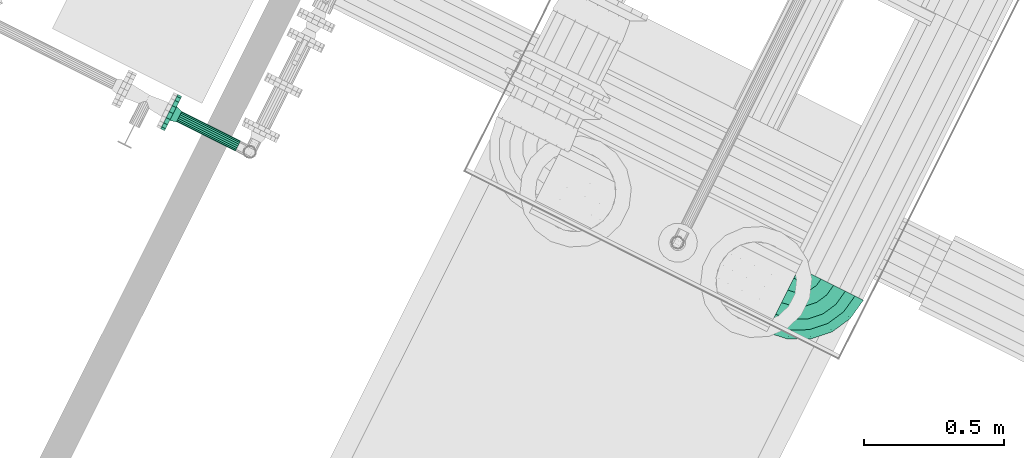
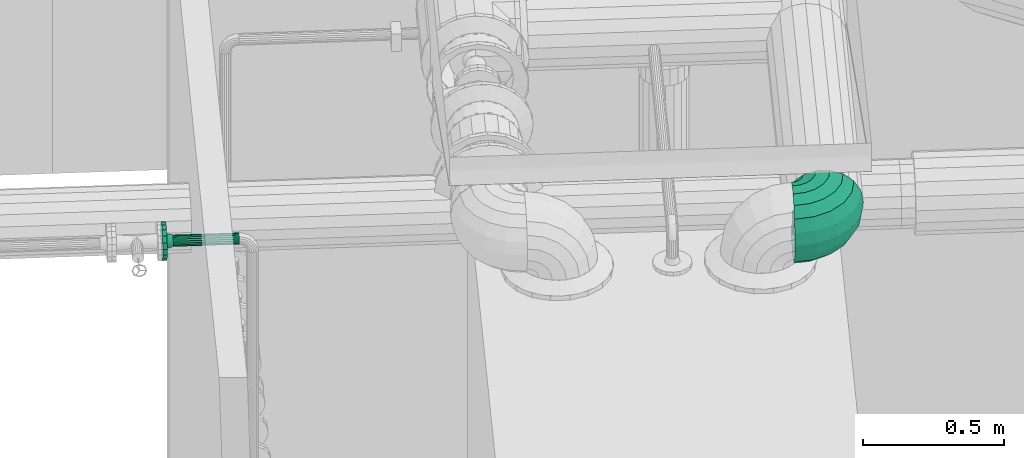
# One storey, part 87 of 206: 2 flow segments, 1 flow fitting.
"""IFC2X3 building model written with IfcOpenShell, lengths in metres."""

from ifc_helpers import new_model, si_unit, derived_unit, direction, frame, origin, place, context, subcontext, project, spatial, face_set, surface_model, source, transform, mapped, material, type_object, type_shapes, element, save


model = new_model("IFC2X3")

# Units and contexts
model_context = context("Model", 3, precision=5.2338327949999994e-05, world=origin(), true_north=direction((0.0, 1.0)))
body_context = subcontext(model_context, "Body", "Model", "MODEL_VIEW")
ifc_project = project(units=[si_unit("LENGTHUNIT", "METRE"), si_unit("AREAUNIT", "SQUARE_METRE"), si_unit("VOLUMEUNIT", "CUBIC_METRE"), si_unit("MASSUNIT", "GRAM", prefix="KILO"), si_unit("PLANEANGLEUNIT", "RADIAN"), derived_unit("THERMALTRANSMITTANCEUNIT", [(si_unit("MASSUNIT", "GRAM", prefix="KILO"), 1), (si_unit("THERMODYNAMICTEMPERATUREUNIT", "KELVIN"), -1), (si_unit("TIMEUNIT", "SECOND"), -3)])], contexts=[model_context])

# Site, building, storey
site_placement = place(None, frame((0.0, 0.0, 0.0), z_axis=(0.0, 0.0, 1.0), x_axis=(0.8939966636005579, -0.4480736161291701, 0.0)))
site = spatial("IfcSite", under=ifc_project, at=site_placement, Name="Default", CompositionType="ELEMENT")
building_placement = place(site_placement, origin())
building = spatial("IfcBuilding", under=site, at=building_placement, CompositionType="ELEMENT")
storey_placement = place(building_placement, origin())
storey = spatial("IfcBuildingStorey", under=building, at=storey_placement, Name="Erdgeschoss", CompositionType="ELEMENT", Elevation=0.0)

# Flow segment
ifc_material_1 = material(Name="IfcSurfaceStyle #9317")
distribution_element_type_1 = type_object("IfcDistributionElementType", Name="Rohrbogen 331481:Rohrbogen 331481", material=ifc_material_1)
shared_shape_1 = source(origin(), body_context, "Body", "SurfaceModel", [
    surface_model("IfcFaceBasedSurfaceModel", [(31.07483578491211, 8.436875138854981, 2.314000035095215), (31.025871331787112, 8.429120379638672, 2.314000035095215), (31.0740079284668, 8.439424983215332, 2.298797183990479), (31.025871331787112, 8.431801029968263, 2.298797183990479), (31.11900750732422, 8.459381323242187, 2.314000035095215), (31.117430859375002, 8.46155037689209, 2.298797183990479), (31.15406118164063, 8.494435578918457, 2.314000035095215), (31.15189154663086, 8.49601106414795, 2.298797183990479), (31.17656678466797, 8.538606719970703, 2.314000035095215), (31.174018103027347, 8.539434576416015, 2.298797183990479), (31.184322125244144, 8.587570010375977, 2.314000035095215), (31.18164089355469, 8.587570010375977, 2.298797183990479), (31.025871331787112, 8.439519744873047, 2.285428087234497), (31.071622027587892, 8.446765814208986, 2.285428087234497), (31.112893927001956, 8.467794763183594, 2.285428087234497), (31.14564774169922, 8.500547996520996, 2.285428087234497), (31.166676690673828, 8.54181989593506, 2.285428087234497), (31.173922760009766, 8.587570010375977, 2.285428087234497), (31.025871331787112, 8.451345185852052, 2.275505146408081), (31.067968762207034, 8.458012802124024, 2.275505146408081), (31.105943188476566, 8.47736162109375, 2.275505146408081), (31.136080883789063, 8.50749931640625, 2.275505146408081), (31.155428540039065, 8.545474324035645, 2.275505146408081), (31.162097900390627, 8.587570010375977, 2.275505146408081), (31.063485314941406, 8.471809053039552, 2.270225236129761), (31.025871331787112, 8.465851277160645, 2.270225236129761), (31.097415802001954, 8.489097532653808, 2.270225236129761), (31.124344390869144, 8.516025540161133, 2.270225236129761), (31.141634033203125, 8.549957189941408, 2.270225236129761), (31.147591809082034, 8.587570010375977, 2.270225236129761), (31.058715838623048, 8.486490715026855, 2.270225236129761), (31.025871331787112, 8.481288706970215, 2.270225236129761), (31.088341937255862, 8.50158688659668, 2.270225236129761), (31.11185445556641, 8.525099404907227, 2.270225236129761), (31.126951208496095, 8.55472724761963, 2.270225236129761), (31.132153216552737, 8.587570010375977, 2.270225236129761), (31.025871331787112, 8.495795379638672, 2.275505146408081), (31.054232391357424, 8.500286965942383, 2.275505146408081), (31.079816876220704, 8.51332279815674, 2.275505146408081), (31.10012028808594, 8.533626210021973, 2.275505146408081), (31.113154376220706, 8.55921011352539, 2.275505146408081), (31.117647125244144, 8.587570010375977, 2.275505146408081), (31.025871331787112, 8.507620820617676, 2.285428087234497), (31.05057680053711, 8.511533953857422, 2.285428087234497), (31.072866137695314, 8.522889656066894, 2.285428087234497), (31.09055343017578, 8.540576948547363, 2.285428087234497), (31.101908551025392, 8.562864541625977, 2.285428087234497), (31.105822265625, 8.587570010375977, 2.285428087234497), (31.04819322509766, 8.518874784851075, 2.298797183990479), (31.025871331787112, 8.515339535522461, 2.298797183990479), (31.068329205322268, 8.529134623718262, 2.298797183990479), (31.08430729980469, 8.545113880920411, 2.298797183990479), (31.094567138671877, 8.56524986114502, 2.298797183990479), (31.098101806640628, 8.587570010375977, 2.298797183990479), (31.025871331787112, 8.518020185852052, 2.314000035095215), (31.047363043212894, 8.521424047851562, 2.314000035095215), (31.06675255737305, 8.531303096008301, 2.314000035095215), (31.082139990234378, 8.546689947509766, 2.314000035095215), (31.09201845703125, 8.566078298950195, 2.314000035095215), (31.095422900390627, 8.587570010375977, 2.314000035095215), (31.025871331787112, 8.515339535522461, 2.3292027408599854), (31.04819322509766, 8.518874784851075, 2.3292027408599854), (31.068329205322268, 8.529134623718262, 2.3292027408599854), (31.08430729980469, 8.545113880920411, 2.3292027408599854), (31.094567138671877, 8.56524986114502, 2.3292027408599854), (31.098101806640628, 8.587570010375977, 2.3292027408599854), (31.025871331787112, 8.507620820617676, 2.3425718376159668), (31.05057680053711, 8.511533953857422, 2.3425718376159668), (31.072866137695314, 8.522889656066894, 2.3425718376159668), (31.09055343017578, 8.540576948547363, 2.3425718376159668), (31.101908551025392, 8.562864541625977, 2.3425718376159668), (31.105822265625, 8.587570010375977, 2.3425718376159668), (31.054232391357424, 8.500286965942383, 2.352494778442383), (31.025871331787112, 8.495795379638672, 2.352494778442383), (31.079816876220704, 8.51332279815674, 2.352494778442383), (31.10012028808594, 8.533626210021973, 2.352494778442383), (31.113154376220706, 8.55921011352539, 2.352494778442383), (31.117647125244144, 8.587570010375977, 2.352494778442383), (31.058715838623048, 8.486490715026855, 2.357774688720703), (31.025871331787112, 8.481288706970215, 2.357774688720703), (31.088341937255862, 8.50158688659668, 2.357774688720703), (31.11185445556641, 8.525099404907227, 2.357774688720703), (31.126951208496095, 8.55472724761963, 2.357774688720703), (31.132153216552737, 8.587570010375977, 2.357774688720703), (31.025871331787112, 8.465851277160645, 2.357774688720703), (31.063485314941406, 8.471809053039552, 2.357774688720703), (31.097415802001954, 8.489097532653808, 2.357774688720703), (31.124344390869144, 8.516025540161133, 2.357774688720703), (31.141634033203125, 8.549957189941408, 2.357774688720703), (31.147591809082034, 8.587570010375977, 2.357774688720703), (31.025871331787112, 8.451345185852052, 2.352494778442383), (31.067968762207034, 8.458012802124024, 2.352494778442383), (31.105943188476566, 8.47736162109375, 2.352494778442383), (31.136080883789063, 8.50749931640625, 2.352494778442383), (31.155428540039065, 8.545474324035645, 2.352494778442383), (31.162097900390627, 8.587570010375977, 2.352494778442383), (31.025871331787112, 8.439519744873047, 2.3425718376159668), (31.071622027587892, 8.446765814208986, 2.3425718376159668), (31.112893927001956, 8.467794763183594, 2.3425718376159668), (31.14564774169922, 8.500547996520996, 2.3425718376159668), (31.166676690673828, 8.54181989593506, 2.3425718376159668), (31.173922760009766, 8.587570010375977, 2.3425718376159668), (31.0740079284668, 8.439424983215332, 2.3292027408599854), (31.025871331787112, 8.431801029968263, 2.3292027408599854), (31.117430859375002, 8.46155037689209, 2.3292027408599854), (31.15189154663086, 8.49601106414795, 2.3292027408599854), (31.174018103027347, 8.539434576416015, 2.3292027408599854), (31.18164089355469, 8.587570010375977, 2.3292027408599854), (31.105738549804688, 8.341769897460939, 2.314000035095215), (31.025871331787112, 8.3291200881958, 2.314000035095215), (31.10304569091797, 8.350054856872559, 2.2645952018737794), (31.025871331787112, 8.33783176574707, 2.2645952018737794), (31.177785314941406, 8.378479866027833, 2.314000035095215), (31.172664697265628, 8.385527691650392, 2.2645952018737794), (31.234963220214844, 8.435657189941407, 2.314000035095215), (31.227914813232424, 8.440777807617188, 2.2645952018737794), (31.271672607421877, 8.50770453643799, 2.314000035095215), (31.26338706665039, 8.510396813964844, 2.2645952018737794), (31.284322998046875, 8.587570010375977, 2.314000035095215), (31.275609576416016, 8.587570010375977, 2.2645952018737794), (31.095295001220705, 8.373910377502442, 2.2211493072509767), (31.025871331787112, 8.362915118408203, 2.2211493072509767), (31.157921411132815, 8.405820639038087, 2.2211493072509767), (31.207620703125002, 8.45552109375, 2.2211493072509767), (31.239532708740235, 8.518148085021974, 2.2211493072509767), (31.250527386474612, 8.587570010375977, 2.2211493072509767), (31.025871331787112, 8.401345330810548, 2.1889025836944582), (31.083418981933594, 8.41045989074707, 2.1889025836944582), (31.135332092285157, 8.436911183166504, 2.1889025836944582), (31.176531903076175, 8.478109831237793, 2.1889025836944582), (31.20298145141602, 8.53002352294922, 2.1889025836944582), (31.212097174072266, 8.587570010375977, 2.1889025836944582), (31.025871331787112, 8.448486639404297, 2.1717444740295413), (31.068850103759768, 8.455293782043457, 2.1717444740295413), (31.10762215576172, 8.475049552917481, 2.1717444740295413), (31.13839237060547, 8.505819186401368, 2.1717444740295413), (31.15814930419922, 8.54459123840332, 2.1717444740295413), (31.164955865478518, 8.587570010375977, 2.1717444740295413), (31.025871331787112, 8.498653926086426, 2.1717444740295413), (31.053348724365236, 8.503005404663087, 2.1717444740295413), (31.078135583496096, 8.51563544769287, 2.1717444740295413), (31.09780647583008, 8.535306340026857, 2.1717444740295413), (31.1104359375, 8.560093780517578, 2.1717444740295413), (31.114789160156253, 8.587570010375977, 2.1717444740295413), (31.025871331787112, 8.545795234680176, 2.1889025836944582), (31.03878217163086, 8.547839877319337, 2.1889025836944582), (31.05042564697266, 8.553773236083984, 2.1889025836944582), (31.059669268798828, 8.56301569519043, 2.1889025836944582), (31.065601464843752, 8.574660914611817, 2.1889025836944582), (31.0676478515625, 8.587570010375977, 2.1889025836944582), (31.025871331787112, 8.58422544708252, 2.2211493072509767), (31.026906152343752, 8.584388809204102, 2.2211493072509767), (31.027838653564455, 8.584864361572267, 2.2211493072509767), (31.028578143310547, 8.58560385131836, 2.2211493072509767), (31.029052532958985, 8.586536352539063, 2.2211493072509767), (31.02921763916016, 8.587570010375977, 2.2211493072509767), (31.025871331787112, 8.58757059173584, 2.2269431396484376), (31.026773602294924, 8.58757059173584, 2.2266957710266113), (31.025871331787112, 8.58757059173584, 2.4010567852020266), (31.026773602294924, 8.58757059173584, 2.401304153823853), (31.026906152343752, 8.584388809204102, 2.4068506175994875), (31.025871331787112, 8.58422544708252, 2.4068506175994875), (31.027838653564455, 8.584864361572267, 2.4068506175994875), (31.028578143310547, 8.58560385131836, 2.4068506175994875), (31.029052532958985, 8.586536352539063, 2.4068506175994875), (31.02921763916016, 8.587570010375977, 2.4068506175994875), (31.03878217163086, 8.547839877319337, 2.439097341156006), (31.025871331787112, 8.545795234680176, 2.439097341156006), (31.05042564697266, 8.553773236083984, 2.439097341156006), (31.059669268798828, 8.56301569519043, 2.439097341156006), (31.065601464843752, 8.574660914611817, 2.439097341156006), (31.0676478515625, 8.587570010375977, 2.439097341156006), (31.053348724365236, 8.503005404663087, 2.4562555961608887), (31.025871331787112, 8.498653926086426, 2.4562555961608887), (31.078135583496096, 8.51563544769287, 2.4562555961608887), (31.09780647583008, 8.535306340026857, 2.4562555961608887), (31.1104359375, 8.560093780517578, 2.4562555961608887), (31.114789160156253, 8.587570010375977, 2.4562555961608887), (31.068850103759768, 8.455293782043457, 2.4562555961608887), (31.025871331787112, 8.448486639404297, 2.4562555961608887), (31.10762215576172, 8.475049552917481, 2.4562555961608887), (31.13839237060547, 8.505819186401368, 2.4562555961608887), (31.15814930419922, 8.54459123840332, 2.4562555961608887), (31.164955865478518, 8.587570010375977, 2.4562555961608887), (31.083418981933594, 8.41045989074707, 2.439097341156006), (31.025871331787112, 8.401345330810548, 2.439097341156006), (31.135332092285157, 8.436911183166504, 2.439097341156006), (31.176531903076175, 8.478109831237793, 2.439097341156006), (31.20298145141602, 8.53002352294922, 2.439097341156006), (31.212097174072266, 8.587570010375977, 2.439097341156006), (31.095295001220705, 8.373910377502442, 2.4068506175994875), (31.025871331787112, 8.362915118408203, 2.4068506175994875), (31.157921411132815, 8.405820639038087, 2.4068506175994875), (31.207620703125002, 8.45552109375, 2.4068506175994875), (31.239532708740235, 8.518148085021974, 2.4068506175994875), (31.250527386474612, 8.587570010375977, 2.4068506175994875), (31.10304569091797, 8.350054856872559, 2.3634048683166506), (31.025871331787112, 8.33783176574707, 2.3634048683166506), (31.172664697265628, 8.385527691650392, 2.3634048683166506), (31.227914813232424, 8.440777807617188, 2.3634048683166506), (31.26338706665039, 8.510396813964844, 2.3634048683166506), (31.275609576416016, 8.587570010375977, 2.3634048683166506)], [face_set([[[0, 1, 2]], [[3, 2, 1]], [[4, 0, 2]], [[2, 5, 4]], [[6, 4, 5]], [[5, 7, 6]], [[8, 6, 7]], [[7, 9, 8]], [[10, 8, 9]], [[9, 11, 10]], [[2, 3, 12]], [[12, 13, 2]], [[5, 2, 13]], [[13, 14, 5]], [[7, 5, 15]], [[14, 15, 5]], [[9, 7, 16]], [[15, 16, 7]], [[11, 9, 17]], [[16, 17, 9]], [[13, 12, 18]], [[18, 19, 13]], [[14, 13, 19]], [[19, 20, 14]], [[15, 14, 21]], [[20, 21, 14]], [[16, 15, 21]], [[21, 22, 16]], [[17, 16, 22]], [[22, 23, 17]], [[19, 18, 24]], [[25, 24, 18]], [[20, 19, 26]], [[24, 26, 19]], [[21, 20, 26]], [[26, 27, 21]], [[22, 21, 28]], [[27, 28, 21]], [[23, 22, 29]], [[28, 29, 22]], [[24, 25, 30]], [[31, 30, 25]], [[26, 24, 30]], [[30, 32, 26]], [[27, 26, 33]], [[32, 33, 26]], [[28, 27, 34]], [[33, 34, 27]], [[29, 28, 34]], [[34, 35, 29]], [[30, 31, 36]], [[36, 37, 30]], [[32, 30, 38]], [[37, 38, 30]], [[33, 32, 39]], [[38, 39, 32]], [[34, 33, 40]], [[39, 40, 33]], [[35, 34, 41]], [[40, 41, 34]], [[37, 36, 42]], [[42, 43, 37]], [[38, 37, 43]], [[43, 44, 38]], [[39, 38, 44]], [[44, 45, 39]], [[40, 39, 46]], [[45, 46, 39]], [[41, 40, 46]], [[46, 47, 41]], [[43, 42, 48]], [[49, 48, 42]], [[44, 43, 50]], [[48, 50, 43]], [[45, 44, 51]], [[50, 51, 44]], [[46, 45, 52]], [[51, 52, 45]], [[47, 46, 53]], [[52, 53, 46]], [[48, 49, 54]], [[54, 55, 48]], [[50, 48, 55]], [[55, 56, 50]], [[51, 50, 56]], [[56, 57, 51]], [[52, 51, 57]], [[57, 58, 52]], [[53, 52, 58]], [[58, 59, 53]], [[55, 54, 60]], [[60, 61, 55]], [[56, 55, 62]], [[61, 62, 55]], [[57, 56, 63]], [[62, 63, 56]], [[58, 57, 64]], [[63, 64, 57]], [[59, 58, 65]], [[64, 65, 58]], [[61, 60, 66]], [[66, 67, 61]], [[62, 61, 67]], [[67, 68, 62]], [[63, 62, 69]], [[68, 69, 62]], [[64, 63, 69]], [[69, 70, 64]], [[65, 64, 70]], [[70, 71, 65]], [[67, 66, 72]], [[73, 72, 66]], [[68, 67, 74]], [[72, 74, 67]], [[69, 68, 75]], [[74, 75, 68]], [[70, 69, 75]], [[75, 76, 70]], [[71, 70, 77]], [[76, 77, 70]], [[72, 73, 78]], [[79, 78, 73]], [[74, 72, 78]], [[78, 80, 74]], [[75, 74, 80]], [[80, 81, 75]], [[76, 75, 81]], [[81, 82, 76]], [[77, 76, 83]], [[82, 83, 76]], [[78, 79, 84]], [[84, 85, 78]], [[80, 78, 86]], [[85, 86, 78]], [[81, 80, 86]], [[86, 87, 81]], [[82, 81, 87]], [[87, 88, 82]], [[83, 82, 89]], [[88, 89, 82]], [[85, 84, 90]], [[90, 91, 85]], [[86, 85, 91]], [[91, 92, 86]], [[87, 86, 93]], [[92, 93, 86]], [[88, 87, 93]], [[93, 94, 88]], [[89, 88, 95]], [[94, 95, 88]], [[91, 90, 96]], [[96, 97, 91]], [[92, 91, 97]], [[97, 98, 92]], [[93, 92, 98]], [[98, 99, 93]], [[94, 93, 99]], [[99, 100, 94]], [[95, 94, 100]], [[100, 101, 95]], [[97, 96, 102]], [[103, 102, 96]], [[98, 97, 104]], [[102, 104, 97]], [[99, 98, 104]], [[104, 105, 99]], [[100, 99, 105]], [[105, 106, 100]], [[101, 100, 107]], [[106, 107, 100]], [[102, 103, 1]], [[1, 0, 102]], [[104, 102, 4]], [[0, 4, 102]], [[105, 104, 6]], [[4, 6, 104]], [[106, 105, 8]], [[6, 8, 105]], [[107, 106, 10]], [[8, 10, 106]], [[108, 109, 110]], [[111, 110, 109]], [[112, 108, 113]], [[110, 113, 108]], [[114, 112, 115]], [[113, 115, 112]], [[116, 114, 117]], [[115, 117, 114]], [[118, 116, 119]], [[117, 119, 116]], [[110, 111, 120]], [[121, 120, 111]], [[113, 110, 120]], [[120, 122, 113]], [[115, 113, 122]], [[122, 123, 115]], [[117, 115, 123]], [[123, 124, 117]], [[119, 117, 124]], [[124, 125, 119]], [[120, 121, 126]], [[126, 127, 120]], [[122, 120, 128]], [[127, 128, 120]], [[123, 122, 129]], [[128, 129, 122]], [[124, 123, 130]], [[129, 130, 123]], [[125, 124, 130]], [[130, 131, 125]], [[127, 126, 132]], [[132, 133, 127]], [[128, 127, 133]], [[133, 134, 128]], [[129, 128, 135]], [[134, 135, 128]], [[130, 129, 136]], [[135, 136, 129]], [[131, 130, 136]], [[136, 137, 131]], [[133, 132, 138]], [[138, 139, 133]], [[134, 133, 140]], [[139, 140, 133]], [[135, 134, 141]], [[140, 141, 134]], [[136, 135, 142]], [[141, 142, 135]], [[137, 136, 142]], [[142, 143, 137]], [[139, 138, 144]], [[144, 145, 139]], [[140, 139, 146]], [[145, 146, 139]], [[141, 140, 146]], [[146, 147, 141]], [[142, 141, 148]], [[147, 148, 141]], [[143, 142, 148]], [[148, 149, 143]], [[145, 144, 150]], [[150, 151, 145]], [[146, 145, 152]], [[151, 152, 145]], [[147, 146, 152]], [[152, 153, 147]], [[148, 147, 154]], [[153, 154, 147]], [[149, 148, 154]], [[154, 155, 149]], [[156, 151, 157]], [[156, 157, 150]], [[151, 150, 157]], [[151, 156, 152]], [[153, 152, 156]], [[154, 153, 156]], [[155, 154, 156]], [[158, 159, 160]], [[161, 160, 159]], [[159, 158, 161]], [[160, 162, 158]], [[158, 162, 163]], [[164, 158, 163]], [[165, 158, 164]], [[160, 161, 166]], [[167, 166, 161]], [[162, 160, 168]], [[166, 168, 160]], [[163, 162, 168]], [[168, 169, 163]], [[164, 163, 169]], [[169, 170, 164]], [[165, 164, 171]], [[170, 171, 164]], [[166, 167, 172]], [[173, 172, 167]], [[168, 166, 172]], [[172, 174, 168]], [[169, 168, 174]], [[174, 175, 169]], [[170, 169, 175]], [[175, 176, 170]], [[171, 170, 177]], [[176, 177, 170]], [[172, 173, 178]], [[179, 178, 173]], [[174, 172, 180]], [[178, 180, 172]], [[175, 174, 180]], [[180, 181, 175]], [[176, 175, 181]], [[181, 182, 176]], [[177, 176, 183]], [[182, 183, 176]], [[178, 179, 184]], [[185, 184, 179]], [[180, 178, 186]], [[184, 186, 178]], [[181, 180, 186]], [[186, 187, 181]], [[182, 181, 187]], [[187, 188, 182]], [[183, 182, 189]], [[188, 189, 182]], [[184, 185, 190]], [[191, 190, 185]], [[186, 184, 190]], [[190, 192, 186]], [[187, 186, 192]], [[192, 193, 187]], [[188, 187, 193]], [[193, 194, 188]], [[189, 188, 195]], [[194, 195, 188]], [[190, 191, 196]], [[197, 196, 191]], [[192, 190, 198]], [[196, 198, 190]], [[193, 192, 199]], [[198, 199, 192]], [[194, 193, 200]], [[199, 200, 193]], [[195, 194, 201]], [[200, 201, 194]], [[196, 197, 109]], [[109, 108, 196]], [[198, 196, 108]], [[108, 112, 198]], [[199, 198, 112]], [[112, 114, 199]], [[200, 199, 114]], [[114, 116, 200]], [[201, 200, 116]], [[116, 118, 201]]])]),
])
type_shapes(distribution_element_type_1, [shared_shape_1])
flow_segment_1_placement = place(storey_placement, origin())
element("IfcFlowSegment", 1, at=flow_segment_1_placement, inside=storey, type_object=distribution_element_type_1, material=ifc_material_1, Name="Rohrbogen", ObjectType="Rohrbogen", context=body_context, shape_type="MappedRepresentation", body=[
    mapped(shared_shape_1, transform((0.0, 0.0, 0.0), scale=1.0)),
])

# Flow fitting
ifc_material_2 = material(Name="IfcSurfaceStyle #352577")
distribution_element_type_2 = type_object("IfcDistributionElementType", Name="Flansch 617766:Flansch 617766", material=ifc_material_2)
shared_shape_2 = source(origin(), body_context, "Body", "SurfaceModel", [
    surface_model("IfcFaceBasedSurfaceModel", [(28.758665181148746, 8.077162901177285, 2.6751641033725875), (28.758665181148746, 8.053221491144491, 2.6709425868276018), (28.774665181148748, 8.053221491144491, 2.6709425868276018), (28.774665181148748, 8.077162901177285, 2.6751641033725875), (28.758665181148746, 8.03216776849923, 2.658787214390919), (28.774665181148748, 8.03216776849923, 2.658787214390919), (28.758665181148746, 8.016541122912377, 2.64016410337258), (28.774665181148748, 8.016541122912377, 2.64016410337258), (28.758665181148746, 8.00822635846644, 2.6173194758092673), (28.774665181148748, 8.00822635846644, 2.6173194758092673), (28.758665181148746, 8.00822635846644, 2.593008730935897), (28.774665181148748, 8.00822635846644, 2.593008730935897), (28.758665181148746, 8.016541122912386, 2.570164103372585), (28.774665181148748, 8.016541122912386, 2.570164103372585), (28.758665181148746, 8.03216776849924, 2.551540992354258), (28.774665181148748, 8.03216776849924, 2.551540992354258), (28.758665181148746, 8.053221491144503, 2.539385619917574), (28.774665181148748, 8.053221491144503, 2.539385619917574), (28.758665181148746, 8.077162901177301, 2.5351641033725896), (28.774665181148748, 8.077162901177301, 2.5351641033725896), (28.758665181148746, 8.101104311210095, 2.5393856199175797), (28.774665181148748, 8.101104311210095, 2.5393856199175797), (28.758665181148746, 8.122158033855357, 2.5515409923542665), (28.774665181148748, 8.122158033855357, 2.5515409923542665), (28.758665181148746, 8.137784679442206, 2.5701641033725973), (28.774665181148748, 8.137784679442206, 2.5701641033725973), (28.758665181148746, 8.146099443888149, 2.5930087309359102), (28.774665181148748, 8.146099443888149, 2.5930087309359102), (28.758665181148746, 8.146099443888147, 2.6173194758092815), (28.774665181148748, 8.146099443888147, 2.6173194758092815), (28.758665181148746, 8.137784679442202, 2.6401641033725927), (28.774665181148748, 8.137784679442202, 2.6401641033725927), (28.758665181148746, 8.122158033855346, 2.6587872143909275), (28.774665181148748, 8.122158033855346, 2.6587872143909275), (28.758665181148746, 8.101104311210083, 2.670942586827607), (28.774665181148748, 8.101104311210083, 2.670942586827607), (28.774665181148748, 8.077162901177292, 2.6051641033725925), (28.774665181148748, 8.04916290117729, 2.605164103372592), (28.774665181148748, 8.050851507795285, 2.5955875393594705), (28.79866518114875, 8.05724141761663, 2.59791327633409), (28.79866518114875, 8.055962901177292, 2.6051641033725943), (28.774665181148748, 8.055713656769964, 2.5871660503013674), (28.79866518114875, 8.060922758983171, 2.591537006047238), (28.774665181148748, 8.063162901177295, 2.580915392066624), (28.79866518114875, 8.066562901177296, 2.5868043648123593), (28.774665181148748, 8.072300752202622, 2.577589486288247), (28.79866518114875, 8.073481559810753, 2.5842861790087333), (28.774665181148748, 8.08202505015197, 2.5775894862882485), (28.79866518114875, 8.080844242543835, 2.5842861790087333), (28.774665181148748, 8.091162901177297, 2.580915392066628), (28.79866518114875, 8.087762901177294, 2.586804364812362), (28.774665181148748, 8.098612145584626, 2.5871660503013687), (28.79866518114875, 8.093403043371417, 2.5915370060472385), (28.774665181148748, 8.103474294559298, 2.595587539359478), (28.79866518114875, 8.097084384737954, 2.5979132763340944), (28.774665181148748, 8.105162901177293, 2.6051641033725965), (28.79866518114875, 8.098362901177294, 2.6051641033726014), (28.774665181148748, 8.103474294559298, 2.6147406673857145), (28.79866518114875, 8.097084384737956, 2.6124149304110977), (28.774665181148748, 8.098612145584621, 2.6231621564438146), (28.79866518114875, 8.093403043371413, 2.61879120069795), (28.774665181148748, 8.09116290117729, 2.6294128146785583), (28.79866518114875, 8.08776290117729, 2.6235238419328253), (28.774665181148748, 8.082025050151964, 2.6327387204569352), (28.79866518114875, 8.08084424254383, 2.6260420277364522), (28.774665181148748, 8.072300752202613, 2.6327387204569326), (28.79866518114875, 8.073481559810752, 2.6260420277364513), (28.774665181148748, 8.063162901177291, 2.6294128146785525), (28.79866518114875, 8.06656290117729, 2.623523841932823), (28.774665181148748, 8.055713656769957, 2.623162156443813), (28.79866518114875, 8.06092275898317, 2.6187912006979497), (28.774665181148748, 8.050851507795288, 2.6147406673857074), (28.79866518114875, 8.057241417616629, 2.612414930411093)], [face_set([[[0, 1, 2, 3]], [[1, 4, 5, 2]], [[4, 6, 7, 5]], [[6, 8, 9, 7]], [[8, 10, 11, 9]], [[10, 12, 13, 11]], [[12, 14, 15, 13]], [[14, 16, 17, 15]], [[16, 18, 19, 17]], [[18, 20, 21, 19]], [[20, 22, 23, 21]], [[22, 24, 25, 23]], [[24, 26, 27, 25]], [[26, 28, 29, 27]], [[28, 30, 31, 29]], [[30, 32, 33, 31]], [[32, 34, 35, 33]], [[34, 0, 3, 35]], [[36, 35, 3]], [[36, 33, 35]], [[36, 31, 33]], [[36, 29, 31]], [[36, 27, 29]], [[36, 25, 27]], [[36, 23, 25]], [[36, 21, 23]], [[36, 19, 21]], [[36, 17, 19]], [[36, 15, 17]], [[36, 13, 15]], [[36, 11, 13]], [[36, 9, 11]], [[36, 7, 9]], [[36, 5, 7]], [[36, 2, 5]], [[36, 3, 2]], [[37, 38, 39, 40]], [[38, 41, 42, 39]], [[41, 43, 44, 42]], [[43, 45, 46, 44]], [[45, 47, 48, 46]], [[47, 49, 50, 48]], [[49, 51, 52, 50]], [[51, 53, 54, 52]], [[53, 55, 56, 54]], [[55, 57, 58, 56]], [[57, 59, 60, 58]], [[59, 61, 62, 60]], [[61, 63, 64, 62]], [[63, 65, 66, 64]], [[65, 67, 68, 66]], [[67, 69, 70, 68]], [[69, 71, 72, 70]], [[71, 37, 40, 72]]])]),
])
type_shapes(distribution_element_type_2, [shared_shape_2])
flow_fitting_placement = place(storey_placement, origin())
element("IfcFlowFitting", 2, at=flow_fitting_placement, inside=storey, type_object=distribution_element_type_2, material=ifc_material_2, Name="Flansch", ObjectType="Flansch", context=body_context, shape_type="MappedRepresentation", body=[
    mapped(shared_shape_2, transform((0.0, 0.0, 0.0), scale=1.0)),
])

# Flow segment
distribution_element_type_3 = type_object("IfcDistributionElementType", Name="Stahlrohr nach DIN 2448 617789:Stahlrohr nach DIN 2448 617789", material=ifc_material_2)
shared_shape_3 = source(origin(), body_context, "Body", "SurfaceModel", [
    surface_model("IfcFaceBasedSurfaceModel", [(28.79866518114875, 8.077162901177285, 2.5839641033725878), (28.79866518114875, 8.08441372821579, 2.5852426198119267), (29.033818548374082, 8.084413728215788, 2.5852426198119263), (29.033818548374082, 8.077162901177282, 2.5839641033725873), (28.79866518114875, 8.090789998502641, 2.5889239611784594), (29.033818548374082, 8.090789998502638, 2.5889239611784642), (28.79866518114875, 8.095522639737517, 2.5945641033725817), (29.033818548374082, 8.095522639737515, 2.594564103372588), (28.79866518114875, 8.09804082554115, 2.6014827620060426), (29.033818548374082, 8.098040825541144, 2.601482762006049), (28.79866518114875, 8.098040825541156, 2.608845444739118), (29.033818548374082, 8.098040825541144, 2.608845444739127), (28.79866518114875, 8.09552263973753, 2.61576410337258), (29.033818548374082, 8.095522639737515, 2.6157641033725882), (28.79866518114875, 8.090789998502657, 2.6214042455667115), (29.033818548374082, 8.090789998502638, 2.6214042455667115), (28.79866518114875, 8.084413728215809, 2.625085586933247), (29.033818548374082, 8.08441372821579, 2.625085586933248), (28.79866518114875, 8.077162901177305, 2.6263641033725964), (29.033818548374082, 8.077162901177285, 2.62636410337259), (28.79866518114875, 8.069912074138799, 2.6250855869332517), (29.033818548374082, 8.06991207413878, 2.625085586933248), (28.79866518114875, 8.063535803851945, 2.6214042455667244), (29.033818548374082, 8.063535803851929, 2.621404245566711), (28.79866518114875, 8.058803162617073, 2.6157641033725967), (29.033818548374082, 8.058803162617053, 2.6157641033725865), (28.79866518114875, 8.056284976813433, 2.6088454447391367), (29.033818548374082, 8.056284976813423, 2.6088454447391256), (28.79866518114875, 8.056284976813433, 2.601482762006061), (29.033818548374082, 8.056284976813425, 2.6014827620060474), (28.79866518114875, 8.058803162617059, 2.5945641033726), (29.033818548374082, 8.058803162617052, 2.594564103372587), (28.79866518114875, 8.06353580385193, 2.588923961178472), (29.033818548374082, 8.063535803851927, 2.5889239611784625), (28.79866518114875, 8.069912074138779, 2.585242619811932), (29.033818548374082, 8.069912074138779, 2.585242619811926)], [face_set([[[0, 1, 2, 3]], [[1, 4, 5, 2]], [[4, 6, 7, 5]], [[6, 8, 9, 7]], [[8, 10, 11, 9]], [[10, 12, 13, 11]], [[12, 14, 15, 13]], [[14, 16, 17, 15]], [[16, 18, 19, 17]], [[18, 20, 21, 19]], [[20, 22, 23, 21]], [[22, 24, 25, 23]], [[24, 26, 27, 25]], [[26, 28, 29, 27]], [[28, 30, 31, 29]], [[30, 32, 33, 31]], [[32, 34, 35, 33]], [[34, 0, 3, 35]]])]),
])
type_shapes(distribution_element_type_3, [shared_shape_3])
flow_segment_2_placement = place(storey_placement, origin())
element("IfcFlowSegment", 3, at=flow_segment_2_placement, inside=storey, type_object=distribution_element_type_3, material=ifc_material_2, Name="Stahlrohr nach DIN 2448", ObjectType="Stahlrohr nach DIN 2448", context=body_context, shape_type="MappedRepresentation", body=[
    mapped(shared_shape_3, transform((0.0, 0.0, 0.0), scale=1.0)),
])

save(model, "model.ifc")
